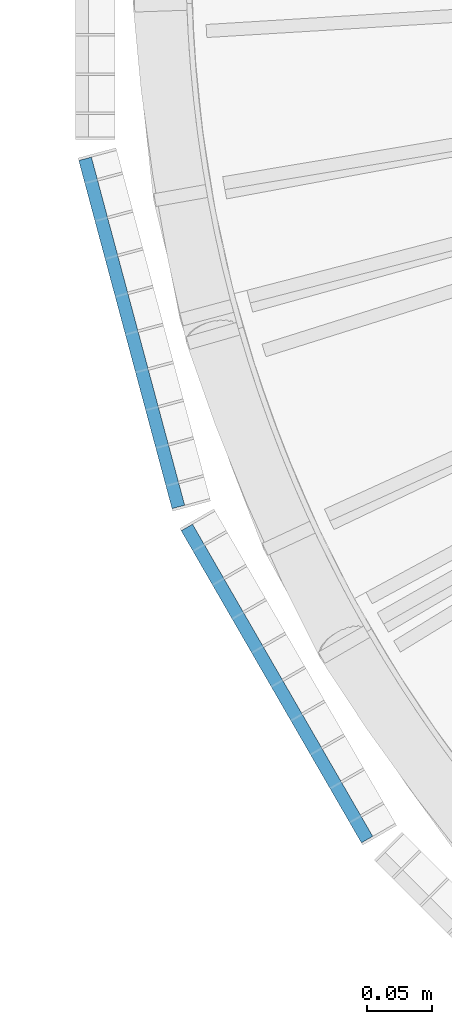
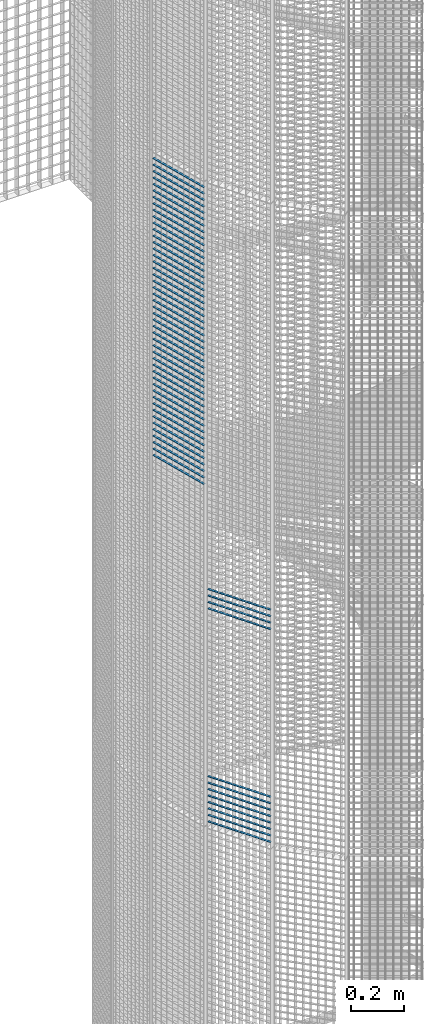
# One storey, part 126 of 1148: 59 beams, 2 elements without a shape of their own.
"""IFC2X3 building model written with IfcOpenShell, lengths in millimetres."""

from ifc_helpers import new_model, si_unit, frame, origin_with_axes, origin_2d_with_axis, place, context, subcontext, project, spatial, rectangle, extrude, material, type_object, element, aggregate, save


model = new_model("IFC2X3")

# Units and contexts
model_context = context("Model", 3, precision=1e-05, world=origin_with_axes())
body_context = subcontext(model_context, "Body", "Model", "MODEL_VIEW")
ifc_project = project(units=[si_unit("LENGTHUNIT", "METRE", prefix="MILLI"), si_unit("AREAUNIT", "SQUARE_METRE"), si_unit("VOLUMEUNIT", "CUBIC_METRE"), si_unit("MASSUNIT", "GRAM", prefix="KILO"), si_unit("TIMEUNIT", "SECOND"), si_unit("PLANEANGLEUNIT", "RADIAN"), si_unit("SOLIDANGLEUNIT", "STERADIAN"), si_unit("THERMODYNAMICTEMPERATUREUNIT", "DEGREE_CELSIUS"), si_unit("LUMINOUSINTENSITYUNIT", "LUMEN")], contexts=[model_context])

# Site, building, storey
site_placement = place(None, origin_with_axes())
site = spatial("IfcSite", under=ifc_project, at=site_placement, Name="Undefined", CompositionType="ELEMENT")
building_placement = place(site_placement, origin_with_axes())
building = spatial("IfcBuilding", under=site, at=building_placement, Name="Undefined", CompositionType="ELEMENT")
storey_placement = place(building_placement, origin_with_axes())
storey = spatial("IfcBuildingStorey", under=building, at=storey_placement, Name="Undefined", CompositionType="ELEMENT", Elevation=0.0)

# Assembly, beams
assembly_1_placement = place(storey_placement, origin_with_axes())
assembly_1 = element("IfcElementAssembly", 1, at=assembly_1_placement, inside=storey, Name="BORDURE", AssemblyPlace="NOTDEFINED", PredefinedType="NOTDEFINED")
ifc_material = material(Name="STEEL/S235JR")
beam_type = type_object("IfcBeamType", Name="PL2*10", PredefinedType="NOTDEFINED")
beam_1_placement = place(assembly_1_placement, frame((-1033.29996828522, -437.231955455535, 3240.0), z_axis=(-0.866025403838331, -0.499999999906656, 0.0), x_axis=(0.499999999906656, -0.866025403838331, 0.0)))
beam_1 = element("IfcBeam", 2, at=beam_1_placement, type_object=beam_type, material=ifc_material, Name="ENTRETOISE", context=body_context, shape_type="SweptSolid", body=[
    extrude(rectangle(XDim=2.0, YDim=10.0, at=origin_2d_with_axis()), frame((275.999999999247, 9.09494701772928e-13, 1.53210777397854e-14), z_axis=(-1.0, 0.0, 0.0), x_axis=(0.0, -1.0, 0.0)), (0.0, 0.0, 1.0), 276.0),
])
beam_2_placement = place(assembly_1_placement, frame((-1033.29996828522, -437.231955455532, 4020.0), z_axis=(-0.866025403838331, -0.499999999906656, 0.0), x_axis=(0.499999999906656, -0.866025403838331, 0.0)))
beam_2 = element("IfcBeam", 3, at=beam_2_placement, type_object=beam_type, material=ifc_material, Name="ENTRETOISE", context=body_context, shape_type="SweptSolid", body=[
    extrude(rectangle(XDim=2.0, YDim=10.0, at=origin_2d_with_axis()), frame((275.999999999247, 9.09494701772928e-13, 1.53210777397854e-14), z_axis=(-1.0, 0.0, 0.0), x_axis=(0.0, -1.0, 0.0)), (0.0, 0.0, 1.0), 276.0),
])
beam_3_placement = place(assembly_1_placement, frame((-1033.29996828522, -437.231955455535, 3210.0), z_axis=(-0.866025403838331, -0.499999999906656, 0.0), x_axis=(0.499999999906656, -0.866025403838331, 0.0)))
beam_3 = element("IfcBeam", 4, at=beam_3_placement, type_object=beam_type, material=ifc_material, Name="ENTRETOISE", context=body_context, shape_type="SweptSolid", body=[
    extrude(rectangle(XDim=2.0, YDim=10.0, at=origin_2d_with_axis()), frame((275.999999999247, 9.09494701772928e-13, 1.53210777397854e-14), z_axis=(-1.0, 0.0, 0.0), x_axis=(0.0, -1.0, 0.0)), (0.0, 0.0, 1.0), 276.0),
])
beam_4_placement = place(assembly_1_placement, frame((-1033.29996828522, -437.231955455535, 3180.0), z_axis=(-0.866025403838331, -0.499999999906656, 0.0), x_axis=(0.499999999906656, -0.866025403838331, 0.0)))
beam_4 = element("IfcBeam", 5, at=beam_4_placement, type_object=beam_type, material=ifc_material, Name="ENTRETOISE", context=body_context, shape_type="SweptSolid", body=[
    extrude(rectangle(XDim=2.0, YDim=10.0, at=origin_2d_with_axis()), frame((275.999999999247, 9.09494701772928e-13, 1.53210777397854e-14), z_axis=(-1.0, 0.0, 0.0), x_axis=(0.0, -1.0, 0.0)), (0.0, 0.0, 1.0), 276.0),
])
beam_5_placement = place(assembly_1_placement, frame((-1033.29996828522, -437.231955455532, 4050.0), z_axis=(-0.866025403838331, -0.499999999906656, 0.0), x_axis=(0.499999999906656, -0.866025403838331, 0.0)))
beam_5 = element("IfcBeam", 6, at=beam_5_placement, type_object=beam_type, material=ifc_material, Name="ENTRETOISE", context=body_context, shape_type="SweptSolid", body=[
    extrude(rectangle(XDim=2.0, YDim=10.0, at=origin_2d_with_axis()), frame((275.999999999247, 9.09494701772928e-13, 1.53210777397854e-14), z_axis=(-1.0, 0.0, 0.0), x_axis=(0.0, -1.0, 0.0)), (0.0, 0.0, 1.0), 276.0),
])
beam_6_placement = place(assembly_1_placement, frame((-1033.29996828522, -437.231955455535, 3150.0), z_axis=(-0.866025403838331, -0.499999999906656, 0.0), x_axis=(0.499999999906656, -0.866025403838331, 0.0)))
beam_6 = element("IfcBeam", 7, at=beam_6_placement, type_object=beam_type, material=ifc_material, Name="ENTRETOISE", context=body_context, shape_type="SweptSolid", body=[
    extrude(rectangle(XDim=2.0, YDim=10.0, at=origin_2d_with_axis()), frame((275.999999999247, 9.09494701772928e-13, 1.53210777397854e-14), z_axis=(-1.0, 0.0, 0.0), x_axis=(0.0, -1.0, 0.0)), (0.0, 0.0, 1.0), 276.0),
])
beam_7_placement = place(assembly_1_placement, frame((-1033.29996828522, -437.231955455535, 3120.0), z_axis=(-0.866025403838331, -0.499999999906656, 0.0), x_axis=(0.499999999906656, -0.866025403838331, 0.0)))
beam_7 = element("IfcBeam", 8, at=beam_7_placement, type_object=beam_type, material=ifc_material, Name="ENTRETOISE", context=body_context, shape_type="SweptSolid", body=[
    extrude(rectangle(XDim=2.0, YDim=10.0, at=origin_2d_with_axis()), frame((275.999999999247, 9.09494701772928e-13, 1.53210777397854e-14), z_axis=(-1.0, 0.0, 0.0), x_axis=(0.0, -1.0, 0.0)), (0.0, 0.0, 1.0), 276.0),
])
beam_8_placement = place(assembly_1_placement, frame((-1033.29996828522, -437.231955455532, 4080.0), z_axis=(-0.866025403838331, -0.499999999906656, 0.0), x_axis=(0.499999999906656, -0.866025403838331, 0.0)))
beam_8 = element("IfcBeam", 9, at=beam_8_placement, type_object=beam_type, material=ifc_material, Name="ENTRETOISE", context=body_context, shape_type="SweptSolid", body=[
    extrude(rectangle(XDim=2.0, YDim=10.0, at=origin_2d_with_axis()), frame((275.999999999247, 9.09494701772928e-13, 1.53210777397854e-14), z_axis=(-1.0, 0.0, 0.0), x_axis=(0.0, -1.0, 0.0)), (0.0, 0.0, 1.0), 276.0),
])
beam_9_placement = place(assembly_1_placement, frame((-1033.29996828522, -437.231955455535, 3090.0), z_axis=(-0.866025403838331, -0.499999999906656, 0.0), x_axis=(0.499999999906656, -0.866025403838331, 0.0)))
beam_9 = element("IfcBeam", 10, at=beam_9_placement, type_object=beam_type, material=ifc_material, Name="ENTRETOISE", context=body_context, shape_type="SweptSolid", body=[
    extrude(rectangle(XDim=2.0, YDim=10.0, at=origin_2d_with_axis()), frame((275.999999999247, 9.09494701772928e-13, 1.53210777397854e-14), z_axis=(-1.0, 0.0, 0.0), x_axis=(0.0, -1.0, 0.0)), (0.0, 0.0, 1.0), 276.0),
])
beam_10_placement = place(assembly_1_placement, frame((-1033.29996828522, -437.231955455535, 3060.0), z_axis=(-0.866025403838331, -0.499999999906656, 0.0), x_axis=(0.499999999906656, -0.866025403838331, 0.0)))
beam_10 = element("IfcBeam", 11, at=beam_10_placement, type_object=beam_type, material=ifc_material, Name="ENTRETOISE", context=body_context, shape_type="SweptSolid", body=[
    extrude(rectangle(XDim=2.0, YDim=10.0, at=origin_2d_with_axis()), frame((275.999999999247, 9.09494701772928e-13, 1.53210777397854e-14), z_axis=(-1.0, 0.0, 0.0), x_axis=(0.0, -1.0, 0.0)), (0.0, 0.0, 1.0), 276.0),
])
beam_11_placement = place(assembly_1_placement, frame((-1033.29996828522, -437.231955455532, 4110.0), z_axis=(-0.866025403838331, -0.499999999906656, 0.0), x_axis=(0.499999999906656, -0.866025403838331, 0.0)))
beam_11 = element("IfcBeam", 12, at=beam_11_placement, type_object=beam_type, material=ifc_material, Name="ENTRETOISE", context=body_context, shape_type="SweptSolid", body=[
    extrude(rectangle(XDim=2.0, YDim=10.0, at=origin_2d_with_axis()), frame((275.999999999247, 9.09494701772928e-13, 1.53210777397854e-14), z_axis=(-1.0, 0.0, 0.0), x_axis=(0.0, -1.0, 0.0)), (0.0, 0.0, 1.0), 276.0),
])
beam_12_placement = place(assembly_1_placement, frame((-1033.29996828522, -437.231955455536, 3030.0), z_axis=(-0.866025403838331, -0.499999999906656, 0.0), x_axis=(0.499999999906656, -0.866025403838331, 0.0)))
beam_12 = element("IfcBeam", 13, at=beam_12_placement, type_object=beam_type, material=ifc_material, Name="ENTRETOISE", context=body_context, shape_type="SweptSolid", body=[
    extrude(rectangle(XDim=2.0, YDim=10.0, at=origin_2d_with_axis()), frame((275.999999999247, 9.09494701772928e-13, 1.53210777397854e-14), z_axis=(-1.0, 0.0, 0.0), x_axis=(0.0, -1.0, 0.0)), (0.0, 0.0, 1.0), 276.0),
])
aggregate(assembly_1, [beam_1, beam_2, beam_3, beam_4, beam_5, beam_6, beam_7, beam_8, beam_9, beam_10, beam_11, beam_12])

assembly_2_placement = place(storey_placement, origin_with_axes())
assembly_2 = element("IfcElementAssembly", 14, at=assembly_2_placement, inside=storey, Name="BORDURE", AssemblyPlace="NOTDEFINED", PredefinedType="NOTDEFINED")
beam_13_placement = place(assembly_2_placement, frame((-1111.25508286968, -154.895926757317, 5970.0), z_axis=(-0.965925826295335, -0.258819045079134, 0.0), x_axis=(0.258819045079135, -0.965925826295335, 0.0)))
beam_13 = element("IfcBeam", 15, at=beam_13_placement, type_object=beam_type, material=ifc_material, Name="ENTRETOISE", context=body_context, shape_type="SweptSolid", body=[
    extrude(rectangle(XDim=2.0, YDim=10.0, at=origin_2d_with_axis()), frame((275.999999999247, 9.09494701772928e-13, 1.53210777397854e-14), z_axis=(-1.0, 0.0, 0.0), x_axis=(0.0, -1.0, 0.0)), (0.0, 0.0, 1.0), 276.0),
])
beam_14_placement = place(assembly_2_placement, frame((-1111.25508286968, -154.895926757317, 5940.0), z_axis=(-0.965925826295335, -0.258819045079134, 0.0), x_axis=(0.258819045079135, -0.965925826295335, 0.0)))
beam_14 = element("IfcBeam", 16, at=beam_14_placement, type_object=beam_type, material=ifc_material, Name="ENTRETOISE", context=body_context, shape_type="SweptSolid", body=[
    extrude(rectangle(XDim=2.0, YDim=10.0, at=origin_2d_with_axis()), frame((275.999999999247, 9.09494701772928e-13, 1.53210777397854e-14), z_axis=(-1.0, 0.0, 0.0), x_axis=(0.0, -1.0, 0.0)), (0.0, 0.0, 1.0), 276.0),
])
beam_15_placement = place(assembly_2_placement, frame((-1111.25508286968, -154.895926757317, 5910.0), z_axis=(-0.965925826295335, -0.258819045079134, 0.0), x_axis=(0.258819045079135, -0.965925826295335, 0.0)))
beam_15 = element("IfcBeam", 17, at=beam_15_placement, type_object=beam_type, material=ifc_material, Name="ENTRETOISE", context=body_context, shape_type="SweptSolid", body=[
    extrude(rectangle(XDim=2.0, YDim=10.0, at=origin_2d_with_axis()), frame((275.999999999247, 9.09494701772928e-13, 1.53210777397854e-14), z_axis=(-1.0, 0.0, 0.0), x_axis=(0.0, -1.0, 0.0)), (0.0, 0.0, 1.0), 276.0),
])
beam_16_placement = place(assembly_2_placement, frame((-1111.25508286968, -154.895926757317, 5880.0), z_axis=(-0.965925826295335, -0.258819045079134, 0.0), x_axis=(0.258819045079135, -0.965925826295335, 0.0)))
beam_16 = element("IfcBeam", 18, at=beam_16_placement, type_object=beam_type, material=ifc_material, Name="ENTRETOISE", context=body_context, shape_type="SweptSolid", body=[
    extrude(rectangle(XDim=2.0, YDim=10.0, at=origin_2d_with_axis()), frame((275.999999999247, 9.09494701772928e-13, 1.53210777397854e-14), z_axis=(-1.0, 0.0, 0.0), x_axis=(0.0, -1.0, 0.0)), (0.0, 0.0, 1.0), 276.0),
])
beam_17_placement = place(assembly_2_placement, frame((-1111.25508286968, -154.895926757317, 5850.0), z_axis=(-0.965925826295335, -0.258819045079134, 0.0), x_axis=(0.258819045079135, -0.965925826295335, 0.0)))
beam_17 = element("IfcBeam", 19, at=beam_17_placement, type_object=beam_type, material=ifc_material, Name="ENTRETOISE", context=body_context, shape_type="SweptSolid", body=[
    extrude(rectangle(XDim=2.0, YDim=10.0, at=origin_2d_with_axis()), frame((275.999999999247, 9.09494701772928e-13, 1.53210777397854e-14), z_axis=(-1.0, 0.0, 0.0), x_axis=(0.0, -1.0, 0.0)), (0.0, 0.0, 1.0), 276.0),
])
beam_18_placement = place(assembly_2_placement, frame((-1111.25508286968, -154.895926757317, 5820.0), z_axis=(-0.965925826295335, -0.258819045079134, 0.0), x_axis=(0.258819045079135, -0.965925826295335, 0.0)))
beam_18 = element("IfcBeam", 20, at=beam_18_placement, type_object=beam_type, material=ifc_material, Name="ENTRETOISE", context=body_context, shape_type="SweptSolid", body=[
    extrude(rectangle(XDim=2.0, YDim=10.0, at=origin_2d_with_axis()), frame((275.999999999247, 9.09494701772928e-13, 1.53210777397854e-14), z_axis=(-1.0, 0.0, 0.0), x_axis=(0.0, -1.0, 0.0)), (0.0, 0.0, 1.0), 276.0),
])
beam_19_placement = place(assembly_2_placement, frame((-1111.25508286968, -154.895926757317, 5790.0), z_axis=(-0.965925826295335, -0.258819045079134, 0.0), x_axis=(0.258819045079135, -0.965925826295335, 0.0)))
beam_19 = element("IfcBeam", 21, at=beam_19_placement, type_object=beam_type, material=ifc_material, Name="ENTRETOISE", context=body_context, shape_type="SweptSolid", body=[
    extrude(rectangle(XDim=2.0, YDim=10.0, at=origin_2d_with_axis()), frame((275.999999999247, 9.09494701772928e-13, 1.53210777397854e-14), z_axis=(-1.0, 0.0, 0.0), x_axis=(0.0, -1.0, 0.0)), (0.0, 0.0, 1.0), 276.0),
])
beam_20_placement = place(assembly_2_placement, frame((-1111.25508286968, -154.895926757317, 5760.0), z_axis=(-0.965925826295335, -0.258819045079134, 0.0), x_axis=(0.258819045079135, -0.965925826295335, 0.0)))
beam_20 = element("IfcBeam", 22, at=beam_20_placement, type_object=beam_type, material=ifc_material, Name="ENTRETOISE", context=body_context, shape_type="SweptSolid", body=[
    extrude(rectangle(XDim=2.0, YDim=10.0, at=origin_2d_with_axis()), frame((275.999999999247, 9.09494701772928e-13, 1.53210777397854e-14), z_axis=(-1.0, 0.0, 0.0), x_axis=(0.0, -1.0, 0.0)), (0.0, 0.0, 1.0), 276.0),
])
beam_21_placement = place(assembly_2_placement, frame((-1111.25508286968, -154.895926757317, 5730.0), z_axis=(-0.965925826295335, -0.258819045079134, 0.0), x_axis=(0.258819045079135, -0.965925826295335, 0.0)))
beam_21 = element("IfcBeam", 23, at=beam_21_placement, type_object=beam_type, material=ifc_material, Name="ENTRETOISE", context=body_context, shape_type="SweptSolid", body=[
    extrude(rectangle(XDim=2.0, YDim=10.0, at=origin_2d_with_axis()), frame((275.999999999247, 9.09494701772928e-13, 1.53210777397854e-14), z_axis=(-1.0, 0.0, 0.0), x_axis=(0.0, -1.0, 0.0)), (0.0, 0.0, 1.0), 276.0),
])
beam_22_placement = place(assembly_2_placement, frame((-1111.25508286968, -154.895926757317, 5700.0), z_axis=(-0.965925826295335, -0.258819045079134, 0.0), x_axis=(0.258819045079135, -0.965925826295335, 0.0)))
beam_22 = element("IfcBeam", 24, at=beam_22_placement, type_object=beam_type, material=ifc_material, Name="ENTRETOISE", context=body_context, shape_type="SweptSolid", body=[
    extrude(rectangle(XDim=2.0, YDim=10.0, at=origin_2d_with_axis()), frame((275.999999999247, 9.09494701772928e-13, 1.53210777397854e-14), z_axis=(-1.0, 0.0, 0.0), x_axis=(0.0, -1.0, 0.0)), (0.0, 0.0, 1.0), 276.0),
])
beam_23_placement = place(assembly_2_placement, frame((-1111.25508286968, -154.895926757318, 5670.0), z_axis=(-0.965925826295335, -0.258819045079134, 0.0), x_axis=(0.258819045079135, -0.965925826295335, 0.0)))
beam_23 = element("IfcBeam", 25, at=beam_23_placement, type_object=beam_type, material=ifc_material, Name="ENTRETOISE", context=body_context, shape_type="SweptSolid", body=[
    extrude(rectangle(XDim=2.0, YDim=10.0, at=origin_2d_with_axis()), frame((275.999999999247, 9.09494701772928e-13, 1.53210777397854e-14), z_axis=(-1.0, 0.0, 0.0), x_axis=(0.0, -1.0, 0.0)), (0.0, 0.0, 1.0), 276.0),
])
beam_24_placement = place(assembly_2_placement, frame((-1111.25508286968, -154.895926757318, 5640.0), z_axis=(-0.965925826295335, -0.258819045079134, 0.0), x_axis=(0.258819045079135, -0.965925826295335, 0.0)))
beam_24 = element("IfcBeam", 26, at=beam_24_placement, type_object=beam_type, material=ifc_material, Name="ENTRETOISE", context=body_context, shape_type="SweptSolid", body=[
    extrude(rectangle(XDim=2.0, YDim=10.0, at=origin_2d_with_axis()), frame((275.999999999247, 9.09494701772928e-13, 1.53210777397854e-14), z_axis=(-1.0, 0.0, 0.0), x_axis=(0.0, -1.0, 0.0)), (0.0, 0.0, 1.0), 276.0),
])
beam_25_placement = place(assembly_2_placement, frame((-1111.25508286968, -154.895926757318, 5610.0), z_axis=(-0.965925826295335, -0.258819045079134, 0.0), x_axis=(0.258819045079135, -0.965925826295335, 0.0)))
beam_25 = element("IfcBeam", 27, at=beam_25_placement, type_object=beam_type, material=ifc_material, Name="ENTRETOISE", context=body_context, shape_type="SweptSolid", body=[
    extrude(rectangle(XDim=2.0, YDim=10.0, at=origin_2d_with_axis()), frame((275.999999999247, 9.09494701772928e-13, 1.53210777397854e-14), z_axis=(-1.0, 0.0, 0.0), x_axis=(0.0, -1.0, 0.0)), (0.0, 0.0, 1.0), 276.0),
])
beam_26_placement = place(assembly_2_placement, frame((-1111.25508286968, -154.895926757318, 5580.0), z_axis=(-0.965925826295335, -0.258819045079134, 0.0), x_axis=(0.258819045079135, -0.965925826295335, 0.0)))
beam_26 = element("IfcBeam", 28, at=beam_26_placement, type_object=beam_type, material=ifc_material, Name="ENTRETOISE", context=body_context, shape_type="SweptSolid", body=[
    extrude(rectangle(XDim=2.0, YDim=10.0, at=origin_2d_with_axis()), frame((275.999999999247, 9.09494701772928e-13, 1.53210777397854e-14), z_axis=(-1.0, 0.0, 0.0), x_axis=(0.0, -1.0, 0.0)), (0.0, 0.0, 1.0), 276.0),
])
beam_27_placement = place(assembly_2_placement, frame((-1111.25508286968, -154.895926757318, 5550.0), z_axis=(-0.965925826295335, -0.258819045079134, 0.0), x_axis=(0.258819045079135, -0.965925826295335, 0.0)))
beam_27 = element("IfcBeam", 29, at=beam_27_placement, type_object=beam_type, material=ifc_material, Name="ENTRETOISE", context=body_context, shape_type="SweptSolid", body=[
    extrude(rectangle(XDim=2.0, YDim=10.0, at=origin_2d_with_axis()), frame((275.999999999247, 9.09494701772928e-13, 1.53210777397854e-14), z_axis=(-1.0, 0.0, 0.0), x_axis=(0.0, -1.0, 0.0)), (0.0, 0.0, 1.0), 276.0),
])
beam_28_placement = place(assembly_2_placement, frame((-1111.25508286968, -154.895926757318, 5520.0), z_axis=(-0.965925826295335, -0.258819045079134, 0.0), x_axis=(0.258819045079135, -0.965925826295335, 0.0)))
beam_28 = element("IfcBeam", 30, at=beam_28_placement, type_object=beam_type, material=ifc_material, Name="ENTRETOISE", context=body_context, shape_type="SweptSolid", body=[
    extrude(rectangle(XDim=2.0, YDim=10.0, at=origin_2d_with_axis()), frame((275.999999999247, 9.09494701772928e-13, 1.53210777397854e-14), z_axis=(-1.0, 0.0, 0.0), x_axis=(0.0, -1.0, 0.0)), (0.0, 0.0, 1.0), 276.0),
])
beam_29_placement = place(assembly_2_placement, frame((-1111.25508286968, -154.895926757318, 5490.0), z_axis=(-0.965925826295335, -0.258819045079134, 0.0), x_axis=(0.258819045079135, -0.965925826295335, 0.0)))
beam_29 = element("IfcBeam", 31, at=beam_29_placement, type_object=beam_type, material=ifc_material, Name="ENTRETOISE", context=body_context, shape_type="SweptSolid", body=[
    extrude(rectangle(XDim=2.0, YDim=10.0, at=origin_2d_with_axis()), frame((275.999999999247, 9.09494701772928e-13, 1.53210777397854e-14), z_axis=(-1.0, 0.0, 0.0), x_axis=(0.0, -1.0, 0.0)), (0.0, 0.0, 1.0), 276.0),
])
beam_30_placement = place(assembly_2_placement, frame((-1111.25508286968, -154.895926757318, 5460.0), z_axis=(-0.965925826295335, -0.258819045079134, 0.0), x_axis=(0.258819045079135, -0.965925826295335, 0.0)))
beam_30 = element("IfcBeam", 32, at=beam_30_placement, type_object=beam_type, material=ifc_material, Name="ENTRETOISE", context=body_context, shape_type="SweptSolid", body=[
    extrude(rectangle(XDim=2.0, YDim=10.0, at=origin_2d_with_axis()), frame((275.999999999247, 9.09494701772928e-13, 1.53210777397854e-14), z_axis=(-1.0, 0.0, 0.0), x_axis=(0.0, -1.0, 0.0)), (0.0, 0.0, 1.0), 276.0),
])
beam_31_placement = place(assembly_2_placement, frame((-1111.25508286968, -154.895926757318, 5430.0), z_axis=(-0.965925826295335, -0.258819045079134, 0.0), x_axis=(0.258819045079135, -0.965925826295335, 0.0)))
beam_31 = element("IfcBeam", 33, at=beam_31_placement, type_object=beam_type, material=ifc_material, Name="ENTRETOISE", context=body_context, shape_type="SweptSolid", body=[
    extrude(rectangle(XDim=2.0, YDim=10.0, at=origin_2d_with_axis()), frame((275.999999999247, 9.09494701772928e-13, 1.53210777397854e-14), z_axis=(-1.0, 0.0, 0.0), x_axis=(0.0, -1.0, 0.0)), (0.0, 0.0, 1.0), 276.0),
])
beam_32_placement = place(assembly_2_placement, frame((-1111.25508286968, -154.895926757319, 5400.0), z_axis=(-0.965925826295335, -0.258819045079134, 0.0), x_axis=(0.258819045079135, -0.965925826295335, 0.0)))
beam_32 = element("IfcBeam", 34, at=beam_32_placement, type_object=beam_type, material=ifc_material, Name="ENTRETOISE", context=body_context, shape_type="SweptSolid", body=[
    extrude(rectangle(XDim=2.0, YDim=10.0, at=origin_2d_with_axis()), frame((275.999999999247, 9.09494701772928e-13, 1.53210777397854e-14), z_axis=(-1.0, 0.0, 0.0), x_axis=(0.0, -1.0, 0.0)), (0.0, 0.0, 1.0), 276.0),
])
beam_33_placement = place(assembly_2_placement, frame((-1111.25508286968, -154.895926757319, 5370.0), z_axis=(-0.965925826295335, -0.258819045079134, 0.0), x_axis=(0.258819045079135, -0.965925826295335, 0.0)))
beam_33 = element("IfcBeam", 35, at=beam_33_placement, type_object=beam_type, material=ifc_material, Name="ENTRETOISE", context=body_context, shape_type="SweptSolid", body=[
    extrude(rectangle(XDim=2.0, YDim=10.0, at=origin_2d_with_axis()), frame((275.999999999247, 9.09494701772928e-13, 1.53210777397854e-14), z_axis=(-1.0, 0.0, 0.0), x_axis=(0.0, -1.0, 0.0)), (0.0, 0.0, 1.0), 276.0),
])
beam_34_placement = place(assembly_2_placement, frame((-1111.25508286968, -154.895926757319, 5340.0), z_axis=(-0.965925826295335, -0.258819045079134, 0.0), x_axis=(0.258819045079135, -0.965925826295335, 0.0)))
beam_34 = element("IfcBeam", 36, at=beam_34_placement, type_object=beam_type, material=ifc_material, Name="ENTRETOISE", context=body_context, shape_type="SweptSolid", body=[
    extrude(rectangle(XDim=2.0, YDim=10.0, at=origin_2d_with_axis()), frame((275.999999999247, 9.09494701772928e-13, 1.53210777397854e-14), z_axis=(-1.0, 0.0, 0.0), x_axis=(0.0, -1.0, 0.0)), (0.0, 0.0, 1.0), 276.0),
])
beam_35_placement = place(assembly_2_placement, frame((-1111.25508286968, -154.895926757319, 5310.0), z_axis=(-0.965925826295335, -0.258819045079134, 0.0), x_axis=(0.258819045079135, -0.965925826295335, 0.0)))
beam_35 = element("IfcBeam", 37, at=beam_35_placement, type_object=beam_type, material=ifc_material, Name="ENTRETOISE", context=body_context, shape_type="SweptSolid", body=[
    extrude(rectangle(XDim=2.0, YDim=10.0, at=origin_2d_with_axis()), frame((275.999999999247, 9.09494701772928e-13, 1.53210777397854e-14), z_axis=(-1.0, 0.0, 0.0), x_axis=(0.0, -1.0, 0.0)), (0.0, 0.0, 1.0), 276.0),
])
beam_36_placement = place(assembly_2_placement, frame((-1111.25508286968, -154.895926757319, 5280.0), z_axis=(-0.965925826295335, -0.258819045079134, 0.0), x_axis=(0.258819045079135, -0.965925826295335, 0.0)))
beam_36 = element("IfcBeam", 38, at=beam_36_placement, type_object=beam_type, material=ifc_material, Name="ENTRETOISE", context=body_context, shape_type="SweptSolid", body=[
    extrude(rectangle(XDim=2.0, YDim=10.0, at=origin_2d_with_axis()), frame((275.999999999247, 9.09494701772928e-13, 1.53210777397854e-14), z_axis=(-1.0, 0.0, 0.0), x_axis=(0.0, -1.0, 0.0)), (0.0, 0.0, 1.0), 276.0),
])
beam_37_placement = place(assembly_2_placement, frame((-1111.25508286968, -154.895926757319, 5250.0), z_axis=(-0.965925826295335, -0.258819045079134, 0.0), x_axis=(0.258819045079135, -0.965925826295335, 0.0)))
beam_37 = element("IfcBeam", 39, at=beam_37_placement, type_object=beam_type, material=ifc_material, Name="ENTRETOISE", context=body_context, shape_type="SweptSolid", body=[
    extrude(rectangle(XDim=2.0, YDim=10.0, at=origin_2d_with_axis()), frame((275.999999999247, 9.09494701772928e-13, 1.53210777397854e-14), z_axis=(-1.0, 0.0, 0.0), x_axis=(0.0, -1.0, 0.0)), (0.0, 0.0, 1.0), 276.0),
])
beam_38_placement = place(assembly_2_placement, frame((-1111.25508286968, -154.895926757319, 5220.0), z_axis=(-0.965925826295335, -0.258819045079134, 0.0), x_axis=(0.258819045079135, -0.965925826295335, 0.0)))
beam_38 = element("IfcBeam", 40, at=beam_38_placement, type_object=beam_type, material=ifc_material, Name="ENTRETOISE", context=body_context, shape_type="SweptSolid", body=[
    extrude(rectangle(XDim=2.0, YDim=10.0, at=origin_2d_with_axis()), frame((275.999999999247, 9.09494701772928e-13, 1.53210777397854e-14), z_axis=(-1.0, 0.0, 0.0), x_axis=(0.0, -1.0, 0.0)), (0.0, 0.0, 1.0), 276.0),
])
beam_39_placement = place(assembly_2_placement, frame((-1111.25508286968, -154.895926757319, 5190.0), z_axis=(-0.965925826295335, -0.258819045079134, 0.0), x_axis=(0.258819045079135, -0.965925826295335, 0.0)))
beam_39 = element("IfcBeam", 41, at=beam_39_placement, type_object=beam_type, material=ifc_material, Name="ENTRETOISE", context=body_context, shape_type="SweptSolid", body=[
    extrude(rectangle(XDim=2.0, YDim=10.0, at=origin_2d_with_axis()), frame((275.999999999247, 9.09494701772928e-13, 1.53210777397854e-14), z_axis=(-1.0, 0.0, 0.0), x_axis=(0.0, -1.0, 0.0)), (0.0, 0.0, 1.0), 276.0),
])
beam_40_placement = place(assembly_2_placement, frame((-1111.25508286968, -154.895926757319, 5160.0), z_axis=(-0.965925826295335, -0.258819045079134, 0.0), x_axis=(0.258819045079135, -0.965925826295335, 0.0)))
beam_40 = element("IfcBeam", 42, at=beam_40_placement, type_object=beam_type, material=ifc_material, Name="ENTRETOISE", context=body_context, shape_type="SweptSolid", body=[
    extrude(rectangle(XDim=2.0, YDim=10.0, at=origin_2d_with_axis()), frame((275.999999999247, 9.09494701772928e-13, 1.53210777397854e-14), z_axis=(-1.0, 0.0, 0.0), x_axis=(0.0, -1.0, 0.0)), (0.0, 0.0, 1.0), 276.0),
])
beam_41_placement = place(assembly_2_placement, frame((-1111.25508286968, -154.89592675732, 5130.0), z_axis=(-0.965925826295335, -0.258819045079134, 0.0), x_axis=(0.258819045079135, -0.965925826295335, 0.0)))
beam_41 = element("IfcBeam", 43, at=beam_41_placement, type_object=beam_type, material=ifc_material, Name="ENTRETOISE", context=body_context, shape_type="SweptSolid", body=[
    extrude(rectangle(XDim=2.0, YDim=10.0, at=origin_2d_with_axis()), frame((275.999999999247, 9.09494701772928e-13, 1.53210777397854e-14), z_axis=(-1.0, 0.0, 0.0), x_axis=(0.0, -1.0, 0.0)), (0.0, 0.0, 1.0), 276.0),
])
beam_42_placement = place(assembly_2_placement, frame((-1111.25508286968, -154.89592675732, 5100.0), z_axis=(-0.965925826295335, -0.258819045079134, 0.0), x_axis=(0.258819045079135, -0.965925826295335, 0.0)))
beam_42 = element("IfcBeam", 44, at=beam_42_placement, type_object=beam_type, material=ifc_material, Name="ENTRETOISE", context=body_context, shape_type="SweptSolid", body=[
    extrude(rectangle(XDim=2.0, YDim=10.0, at=origin_2d_with_axis()), frame((275.999999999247, 9.09494701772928e-13, 1.53210777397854e-14), z_axis=(-1.0, 0.0, 0.0), x_axis=(0.0, -1.0, 0.0)), (0.0, 0.0, 1.0), 276.0),
])
beam_43_placement = place(assembly_2_placement, frame((-1111.25508286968, -154.89592675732, 5070.0), z_axis=(-0.965925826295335, -0.258819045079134, 0.0), x_axis=(0.258819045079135, -0.965925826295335, 0.0)))
beam_43 = element("IfcBeam", 45, at=beam_43_placement, type_object=beam_type, material=ifc_material, Name="ENTRETOISE", context=body_context, shape_type="SweptSolid", body=[
    extrude(rectangle(XDim=2.0, YDim=10.0, at=origin_2d_with_axis()), frame((275.999999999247, 9.09494701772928e-13, 1.53210777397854e-14), z_axis=(-1.0, 0.0, 0.0), x_axis=(0.0, -1.0, 0.0)), (0.0, 0.0, 1.0), 276.0),
])
beam_44_placement = place(assembly_2_placement, frame((-1111.25508286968, -154.89592675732, 5040.0), z_axis=(-0.965925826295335, -0.258819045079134, 0.0), x_axis=(0.258819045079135, -0.965925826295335, 0.0)))
beam_44 = element("IfcBeam", 46, at=beam_44_placement, type_object=beam_type, material=ifc_material, Name="ENTRETOISE", context=body_context, shape_type="SweptSolid", body=[
    extrude(rectangle(XDim=2.0, YDim=10.0, at=origin_2d_with_axis()), frame((275.999999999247, 9.09494701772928e-13, 1.53210777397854e-14), z_axis=(-1.0, 0.0, 0.0), x_axis=(0.0, -1.0, 0.0)), (0.0, 0.0, 1.0), 276.0),
])
beam_45_placement = place(assembly_2_placement, frame((-1111.25508286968, -154.89592675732, 5010.0), z_axis=(-0.965925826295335, -0.258819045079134, 0.0), x_axis=(0.258819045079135, -0.965925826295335, 0.0)))
beam_45 = element("IfcBeam", 47, at=beam_45_placement, type_object=beam_type, material=ifc_material, Name="ENTRETOISE", context=body_context, shape_type="SweptSolid", body=[
    extrude(rectangle(XDim=2.0, YDim=10.0, at=origin_2d_with_axis()), frame((275.999999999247, 9.09494701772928e-13, 1.53210777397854e-14), z_axis=(-1.0, 0.0, 0.0), x_axis=(0.0, -1.0, 0.0)), (0.0, 0.0, 1.0), 276.0),
])
beam_46_placement = place(assembly_2_placement, frame((-1111.25508286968, -154.89592675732, 4980.0), z_axis=(-0.965925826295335, -0.258819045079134, 0.0), x_axis=(0.258819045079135, -0.965925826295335, 0.0)))
beam_46 = element("IfcBeam", 48, at=beam_46_placement, type_object=beam_type, material=ifc_material, Name="ENTRETOISE", context=body_context, shape_type="SweptSolid", body=[
    extrude(rectangle(XDim=2.0, YDim=10.0, at=origin_2d_with_axis()), frame((275.999999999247, 9.09494701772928e-13, 1.53210777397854e-14), z_axis=(-1.0, 0.0, 0.0), x_axis=(0.0, -1.0, 0.0)), (0.0, 0.0, 1.0), 276.0),
])
beam_47_placement = place(assembly_2_placement, frame((-1111.25508286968, -154.89592675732, 4950.0), z_axis=(-0.965925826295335, -0.258819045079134, 0.0), x_axis=(0.258819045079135, -0.965925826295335, 0.0)))
beam_47 = element("IfcBeam", 49, at=beam_47_placement, type_object=beam_type, material=ifc_material, Name="ENTRETOISE", context=body_context, shape_type="SweptSolid", body=[
    extrude(rectangle(XDim=2.0, YDim=10.0, at=origin_2d_with_axis()), frame((275.999999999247, 9.09494701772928e-13, 1.53210777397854e-14), z_axis=(-1.0, 0.0, 0.0), x_axis=(0.0, -1.0, 0.0)), (0.0, 0.0, 1.0), 276.0),
])
beam_48_placement = place(assembly_2_placement, frame((-1111.25508286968, -154.89592675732, 4920.0), z_axis=(-0.965925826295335, -0.258819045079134, 0.0), x_axis=(0.258819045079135, -0.965925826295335, 0.0)))
beam_48 = element("IfcBeam", 50, at=beam_48_placement, type_object=beam_type, material=ifc_material, Name="ENTRETOISE", context=body_context, shape_type="SweptSolid", body=[
    extrude(rectangle(XDim=2.0, YDim=10.0, at=origin_2d_with_axis()), frame((275.999999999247, 9.09494701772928e-13, 1.53210777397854e-14), z_axis=(-1.0, 0.0, 0.0), x_axis=(0.0, -1.0, 0.0)), (0.0, 0.0, 1.0), 276.0),
])
beam_49_placement = place(assembly_2_placement, frame((-1111.25508286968, -154.89592675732, 4890.0), z_axis=(-0.965925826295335, -0.258819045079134, 0.0), x_axis=(0.258819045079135, -0.965925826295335, 0.0)))
beam_49 = element("IfcBeam", 51, at=beam_49_placement, type_object=beam_type, material=ifc_material, Name="ENTRETOISE", context=body_context, shape_type="SweptSolid", body=[
    extrude(rectangle(XDim=2.0, YDim=10.0, at=origin_2d_with_axis()), frame((275.999999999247, 9.09494701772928e-13, 1.53210777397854e-14), z_axis=(-1.0, 0.0, 0.0), x_axis=(0.0, -1.0, 0.0)), (0.0, 0.0, 1.0), 276.0),
])
beam_50_placement = place(assembly_2_placement, frame((-1111.25508286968, -154.895926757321, 4860.0), z_axis=(-0.965925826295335, -0.258819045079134, 0.0), x_axis=(0.258819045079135, -0.965925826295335, 0.0)))
beam_50 = element("IfcBeam", 52, at=beam_50_placement, type_object=beam_type, material=ifc_material, Name="ENTRETOISE", context=body_context, shape_type="SweptSolid", body=[
    extrude(rectangle(XDim=2.0, YDim=10.0, at=origin_2d_with_axis()), frame((275.999999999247, 9.09494701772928e-13, 1.53210777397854e-14), z_axis=(-1.0, 0.0, 0.0), x_axis=(0.0, -1.0, 0.0)), (0.0, 0.0, 1.0), 276.0),
])
beam_51_placement = place(assembly_2_placement, frame((-1111.25508286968, -154.895926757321, 4830.0), z_axis=(-0.965925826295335, -0.258819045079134, 0.0), x_axis=(0.258819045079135, -0.965925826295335, 0.0)))
beam_51 = element("IfcBeam", 53, at=beam_51_placement, type_object=beam_type, material=ifc_material, Name="ENTRETOISE", context=body_context, shape_type="SweptSolid", body=[
    extrude(rectangle(XDim=2.0, YDim=10.0, at=origin_2d_with_axis()), frame((275.999999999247, 9.09494701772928e-13, 1.53210777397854e-14), z_axis=(-1.0, 0.0, 0.0), x_axis=(0.0, -1.0, 0.0)), (0.0, 0.0, 1.0), 276.0),
])
beam_52_placement = place(assembly_2_placement, frame((-1111.25508286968, -154.895926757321, 4800.0), z_axis=(-0.965925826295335, -0.258819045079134, 0.0), x_axis=(0.258819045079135, -0.965925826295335, 0.0)))
beam_52 = element("IfcBeam", 54, at=beam_52_placement, type_object=beam_type, material=ifc_material, Name="ENTRETOISE", context=body_context, shape_type="SweptSolid", body=[
    extrude(rectangle(XDim=2.0, YDim=10.0, at=origin_2d_with_axis()), frame((275.999999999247, 9.09494701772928e-13, 1.53210777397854e-14), z_axis=(-1.0, 0.0, 0.0), x_axis=(0.0, -1.0, 0.0)), (0.0, 0.0, 1.0), 276.0),
])
beam_53_placement = place(assembly_2_placement, frame((-1111.25508286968, -154.895926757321, 4770.0), z_axis=(-0.965925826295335, -0.258819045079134, 0.0), x_axis=(0.258819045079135, -0.965925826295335, 0.0)))
beam_53 = element("IfcBeam", 55, at=beam_53_placement, type_object=beam_type, material=ifc_material, Name="ENTRETOISE", context=body_context, shape_type="SweptSolid", body=[
    extrude(rectangle(XDim=2.0, YDim=10.0, at=origin_2d_with_axis()), frame((275.999999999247, 9.09494701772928e-13, 1.53210777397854e-14), z_axis=(-1.0, 0.0, 0.0), x_axis=(0.0, -1.0, 0.0)), (0.0, 0.0, 1.0), 276.0),
])
beam_54_placement = place(assembly_2_placement, frame((-1111.25508286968, -154.895926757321, 4740.0), z_axis=(-0.965925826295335, -0.258819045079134, 0.0), x_axis=(0.258819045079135, -0.965925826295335, 0.0)))
beam_54 = element("IfcBeam", 56, at=beam_54_placement, type_object=beam_type, material=ifc_material, Name="ENTRETOISE", context=body_context, shape_type="SweptSolid", body=[
    extrude(rectangle(XDim=2.0, YDim=10.0, at=origin_2d_with_axis()), frame((275.999999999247, 9.09494701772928e-13, 1.53210777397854e-14), z_axis=(-1.0, 0.0, 0.0), x_axis=(0.0, -1.0, 0.0)), (0.0, 0.0, 1.0), 276.0),
])
beam_55_placement = place(assembly_2_placement, frame((-1111.25508286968, -154.895926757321, 4710.0), z_axis=(-0.965925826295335, -0.258819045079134, 0.0), x_axis=(0.258819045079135, -0.965925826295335, 0.0)))
beam_55 = element("IfcBeam", 57, at=beam_55_placement, type_object=beam_type, material=ifc_material, Name="ENTRETOISE", context=body_context, shape_type="SweptSolid", body=[
    extrude(rectangle(XDim=2.0, YDim=10.0, at=origin_2d_with_axis()), frame((275.999999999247, 9.09494701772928e-13, 1.53210777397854e-14), z_axis=(-1.0, 0.0, 0.0), x_axis=(0.0, -1.0, 0.0)), (0.0, 0.0, 1.0), 276.0),
])
beam_56_placement = place(assembly_2_placement, frame((-1111.25508286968, -154.895926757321, 4680.0), z_axis=(-0.965925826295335, -0.258819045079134, 0.0), x_axis=(0.258819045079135, -0.965925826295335, 0.0)))
beam_56 = element("IfcBeam", 58, at=beam_56_placement, type_object=beam_type, material=ifc_material, Name="ENTRETOISE", context=body_context, shape_type="SweptSolid", body=[
    extrude(rectangle(XDim=2.0, YDim=10.0, at=origin_2d_with_axis()), frame((275.999999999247, 9.09494701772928e-13, 1.53210777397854e-14), z_axis=(-1.0, 0.0, 0.0), x_axis=(0.0, -1.0, 0.0)), (0.0, 0.0, 1.0), 276.0),
])
beam_57_placement = place(assembly_2_placement, frame((-1111.25508286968, -154.895926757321, 4650.0), z_axis=(-0.965925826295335, -0.258819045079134, 0.0), x_axis=(0.258819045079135, -0.965925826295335, 0.0)))
beam_57 = element("IfcBeam", 59, at=beam_57_placement, type_object=beam_type, material=ifc_material, Name="ENTRETOISE", context=body_context, shape_type="SweptSolid", body=[
    extrude(rectangle(XDim=2.0, YDim=10.0, at=origin_2d_with_axis()), frame((275.999999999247, 9.09494701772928e-13, 1.53210777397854e-14), z_axis=(-1.0, 0.0, 0.0), x_axis=(0.0, -1.0, 0.0)), (0.0, 0.0, 1.0), 276.0),
])
beam_58_placement = place(assembly_2_placement, frame((-1111.25508286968, -154.895926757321, 4620.0), z_axis=(-0.965925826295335, -0.258819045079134, 0.0), x_axis=(0.258819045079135, -0.965925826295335, 0.0)))
beam_58 = element("IfcBeam", 60, at=beam_58_placement, type_object=beam_type, material=ifc_material, Name="ENTRETOISE", context=body_context, shape_type="SweptSolid", body=[
    extrude(rectangle(XDim=2.0, YDim=10.0, at=origin_2d_with_axis()), frame((275.999999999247, 9.09494701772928e-13, 1.53210777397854e-14), z_axis=(-1.0, 0.0, 0.0), x_axis=(0.0, -1.0, 0.0)), (0.0, 0.0, 1.0), 276.0),
])
beam_59_placement = place(assembly_2_placement, frame((-1111.25508286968, -154.895926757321, 4590.0), z_axis=(-0.965925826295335, -0.258819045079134, 0.0), x_axis=(0.258819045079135, -0.965925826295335, 0.0)))
beam_59 = element("IfcBeam", 61, at=beam_59_placement, type_object=beam_type, material=ifc_material, Name="ENTRETOISE", context=body_context, shape_type="SweptSolid", body=[
    extrude(rectangle(XDim=2.0, YDim=10.0, at=origin_2d_with_axis()), frame((275.999999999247, 9.09494701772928e-13, 1.53210777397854e-14), z_axis=(-1.0, 0.0, 0.0), x_axis=(0.0, -1.0, 0.0)), (0.0, 0.0, 1.0), 276.0),
])
aggregate(assembly_2, [beam_13, beam_14, beam_15, beam_16, beam_17, beam_18, beam_19, beam_20, beam_21, beam_22, beam_23, beam_24, beam_25, beam_26, beam_27, beam_28, beam_29, beam_30, beam_31, beam_32, beam_33, beam_34, beam_35, beam_36, beam_37, beam_38, beam_39, beam_40, beam_41, beam_42, beam_43, beam_44, beam_45, beam_46, beam_47, beam_48, beam_49, beam_50, beam_51, beam_52, beam_53, beam_54, beam_55, beam_56, beam_57, beam_58, beam_59])

save(model, "model.ifc")
